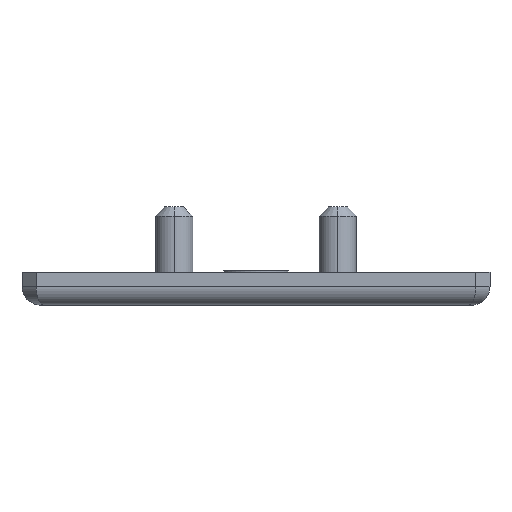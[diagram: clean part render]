
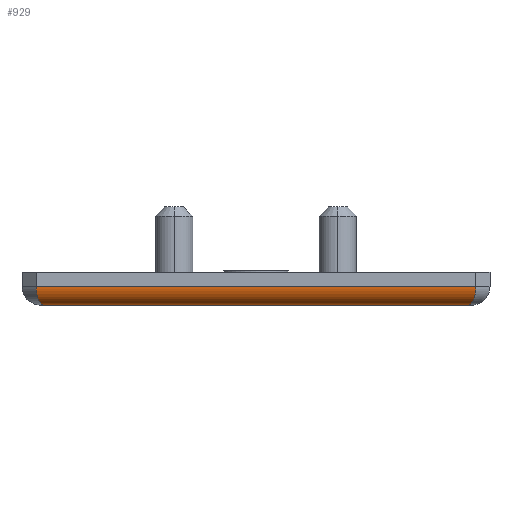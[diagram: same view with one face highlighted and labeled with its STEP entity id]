
A CAD part, left-side view. The second image highlights one B-rep face of the part: STEP entity #929.
In plain terms, the highlighted cylindrical face has radius 2 mm (diameter 4 mm), a partial arc.
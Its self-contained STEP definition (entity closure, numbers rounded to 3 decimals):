
#50 = CARTESIAN_POINT ( 'NONE',  ( -24.172, -23.157, 0. ) ) ;
#128 =( BOUNDED_CURVE ( )  B_SPLINE_CURVE ( 3, ( #1876, #50, #428, #2243 ),
 .UNSPECIFIED., .F., .T. ) 
 B_SPLINE_CURVE_WITH_KNOTS ( ( 4, 4 ),
 ( 4.712, 6.283 ),
 .UNSPECIFIED. ) 
 CURVE ( )  GEOMETRIC_REPRESENTATION_ITEM ( )  RATIONAL_B_SPLINE_CURVE ( ( 1., 0.805, 0.805, 1. ) ) 
 REPRESENTATION_ITEM ( '' )  );
#134 = CARTESIAN_POINT ( 'NONE',  ( -23., 22.672, 0. ) ) ;
#364 = AXIS2_PLACEMENT_3D ( 'NONE', #471, #1739, #1750 ) ;
#378 = ORIENTED_EDGE ( 'NONE', *, *, #787, .F. ) ;
#428 = CARTESIAN_POINT ( 'NONE',  ( -25., -23.5, 0.828 ) ) ;
#471 = CARTESIAN_POINT ( 'NONE',  ( -23., -25., 2. ) ) ;
#540 = FACE_OUTER_BOUND ( 'NONE', #1917, .T. ) ;
#541 = CARTESIAN_POINT ( 'NONE',  ( -23., 22.672, 0. ) ) ;
#563 = DIRECTION ( 'NONE',  ( 0., -1., 0. ) ) ;
#706 = CARTESIAN_POINT ( 'NONE',  ( -25., -25., 2. ) ) ;
#723 = CARTESIAN_POINT ( 'NONE',  ( -25., 23.5, 0.828 ) ) ;
#750 = EDGE_CURVE ( 'NONE', #1363, #2259, #1338, .T. ) ;
#787 = EDGE_CURVE ( 'NONE', #2259, #1276, #2185, .T. ) ;
#792 = CYLINDRICAL_SURFACE ( 'NONE', #364, 2. ) ;
#803 = ORIENTED_EDGE ( 'NONE', *, *, #1983, .F. ) ;
#865 = VERTEX_POINT ( 'NONE', #2027 ) ;
#906 = DIRECTION ( 'NONE',  ( 0., 1., 0. ) ) ;
#929 = ADVANCED_FACE ( 'NONE', ( #540 ), #792, .T. ) ;
#1112 = EDGE_CURVE ( 'NONE', #865, #1276, #128, .T. ) ;
#1188 = ORIENTED_EDGE ( 'NONE', *, *, #1112, .T. ) ;
#1236 = CARTESIAN_POINT ( 'NONE',  ( -25., -23.5, 2. ) ) ;
#1276 = VERTEX_POINT ( 'NONE', #1236 ) ;
#1338 =( BOUNDED_CURVE ( )  B_SPLINE_CURVE ( 3, ( #541, #1824, #723, #2002 ),
 .UNSPECIFIED., .F., .T. ) 
 B_SPLINE_CURVE_WITH_KNOTS ( ( 4, 4 ),
 ( 1.571, 3.142 ),
 .UNSPECIFIED. ) 
 CURVE ( )  GEOMETRIC_REPRESENTATION_ITEM ( )  RATIONAL_B_SPLINE_CURVE ( ( 1., 0.805, 0.805, 1. ) ) 
 REPRESENTATION_ITEM ( '' )  );
#1363 = VERTEX_POINT ( 'NONE', #134 ) ;
#1601 = VECTOR ( 'NONE', #563, 1000. ) ;
#1652 = CARTESIAN_POINT ( 'NONE',  ( -25., 23.5, 2. ) ) ;
#1739 = DIRECTION ( 'NONE',  ( 0., -1., 0. ) ) ;
#1750 = DIRECTION ( 'NONE',  ( 0., 0., -1. ) ) ;
#1779 = ORIENTED_EDGE ( 'NONE', *, *, #750, .F. ) ;
#1824 = CARTESIAN_POINT ( 'NONE',  ( -24.172, 23.157, 0. ) ) ;
#1839 = VECTOR ( 'NONE', #906, 1000. ) ;
#1876 = CARTESIAN_POINT ( 'NONE',  ( -23., -22.672, 0. ) ) ;
#1917 = EDGE_LOOP ( 'NONE', ( #1188, #378, #1779, #803 ) ) ;
#1983 = EDGE_CURVE ( 'NONE', #865, #1363, #2172, .T. ) ;
#2002 = CARTESIAN_POINT ( 'NONE',  ( -25., 23.5, 2. ) ) ;
#2027 = CARTESIAN_POINT ( 'NONE',  ( -23., -22.672, 0. ) ) ;
#2172 = LINE ( 'NONE', #2340, #1839 ) ;
#2185 = LINE ( 'NONE', #706, #1601 ) ;
#2243 = CARTESIAN_POINT ( 'NONE',  ( -25., -23.5, 2. ) ) ;
#2259 = VERTEX_POINT ( 'NONE', #1652 ) ;
#2340 = CARTESIAN_POINT ( 'NONE',  ( -23., 0., 0. ) ) ;
